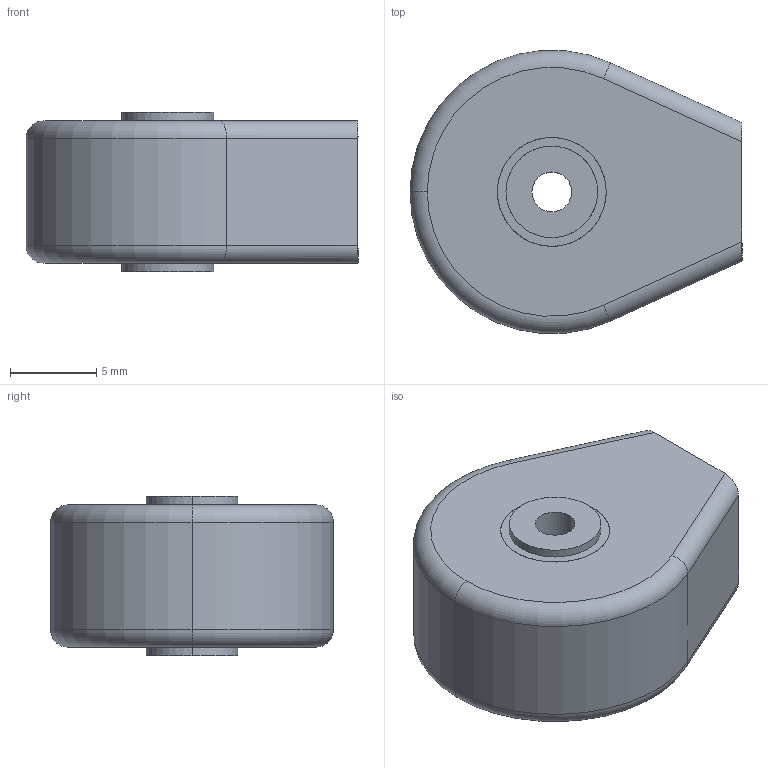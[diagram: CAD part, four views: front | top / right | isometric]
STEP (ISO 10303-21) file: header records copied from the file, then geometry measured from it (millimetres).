
FILE_DESCRIPTION (( 'STEP AP203' ), '1' );
FILE_NAME ('DW-TRHTXX-XXXX Triggy simplifié.STEP', '2022-02-25T15:28:47', ( '' ), ( '' ), 'SwSTEP 2.0', 'SolidWorks 2021', '' );
FILE_SCHEMA (( 'CONFIG_CONTROL_DESIGN' ));
Length unit declared in the file: millimetre
Products named in the file (4): DW-TRBAXX-XXXX- BAGUE SIMPLIFIEE_HT02; DW-TRHTXX-XXXX Triggy simplifié; DW-TRENXX-0000-Enrobage simplifie TRIGGYS_HT02; DW-TRENXX-XXXX- ENTRETOISE SIMPLIFIEE_HT02
Assembly tree (3 placements, depth 2):
  DW-TRHTXX-XXXX Triggy simplifié
    DW-TRENXX-XXXX- ENTRETOISE SIMPLIFIEE_HT02
    DW-TRBAXX-XXXX- BAGUE SIMPLIFIEE_HT02
    DW-TRENXX-0000-Enrobage simplifie TRIGGYS_HT02
Bounding box: 19.2 x 16.36 x 9.2 mm (x, y, z)
Volume: 1991.5 mm3; surface area: 1596.3 mm2
Topology: 3 solids, 3 shells, 205 faces, 546 edges, 362 vertices
Faces by surface type: bspline 97, plane 88, cylinder 16, torus 4
Entity records: 7477 total; most frequent: CARTESIAN_POINT 2609, ORIENTED_EDGE 1092, DIRECTION 603, EDGE_CURVE 546, VERTEX_POINT 362, VECTOR 307, LINE 307, EDGE_LOOP 226
